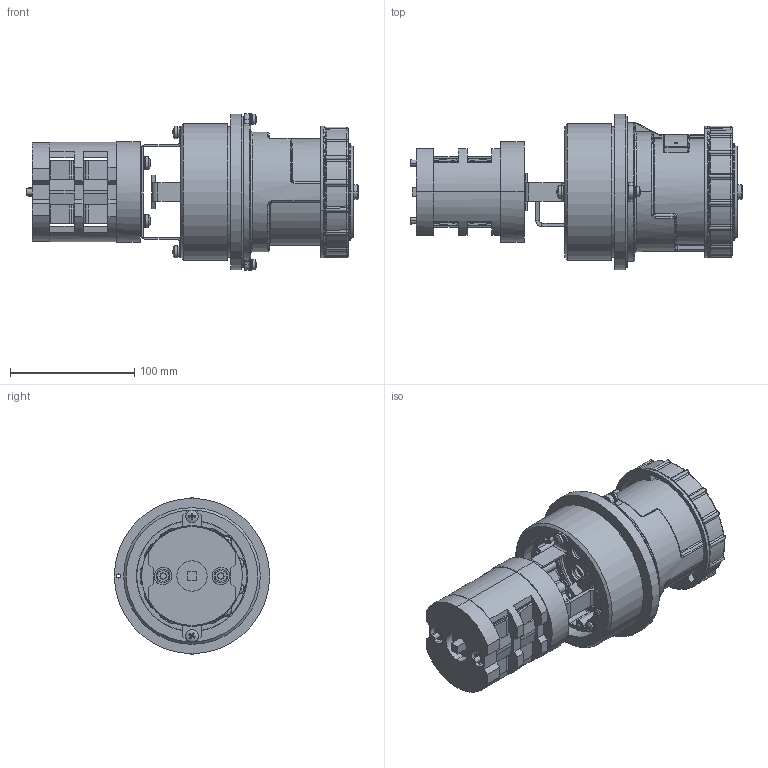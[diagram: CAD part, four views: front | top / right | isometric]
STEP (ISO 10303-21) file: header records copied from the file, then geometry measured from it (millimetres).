
FILE_DESCRIPTION (( 'STEP AP214' ), '1' );
FILE_NAME ('ﾐﾃﾂﾊ-63-415-4_ﾌ2.STEP', '2024-01-25T05:23:10', ( '' ), ( '' ), 'SwSTEP 2.0', 'SolidWorks 2018', '' );
FILE_SCHEMA (( 'AUTOMOTIVE_DESIGN' ));
Length unit declared in the file: millimetre
Products named in the file (1): ﾐﾃﾂﾊ-63-415-4_ﾌ2
Bounding box: 267.15 x 125 x 126 mm (x, y, z)
Surface area: 177239.4 mm2 (no closed solid volume)
Topology: 0 solids, 55 shells, 1248 faces, 3929 edges, 2670 vertices
Faces by surface type: plane 450, cylinder 297, bspline 281, torus 120, cone 86, sphere 14
Full cylindrical faces by diameter (mm): 3.242 x1, 4 x1, 8 x6, 9 x6, 10 x6, 89.5 x1, 105 x1, 110 x1, 125 x1
Entity records: 72374 total; most frequent: CARTESIAN_POINT 26908, ORIENTED_EDGE 6376, DIRECTION 5815, EDGE_CURVE 3868, VERTEX_POINT 2670, AXIS2_PLACEMENT_3D 2094, LINE 1627, VECTOR 1627
